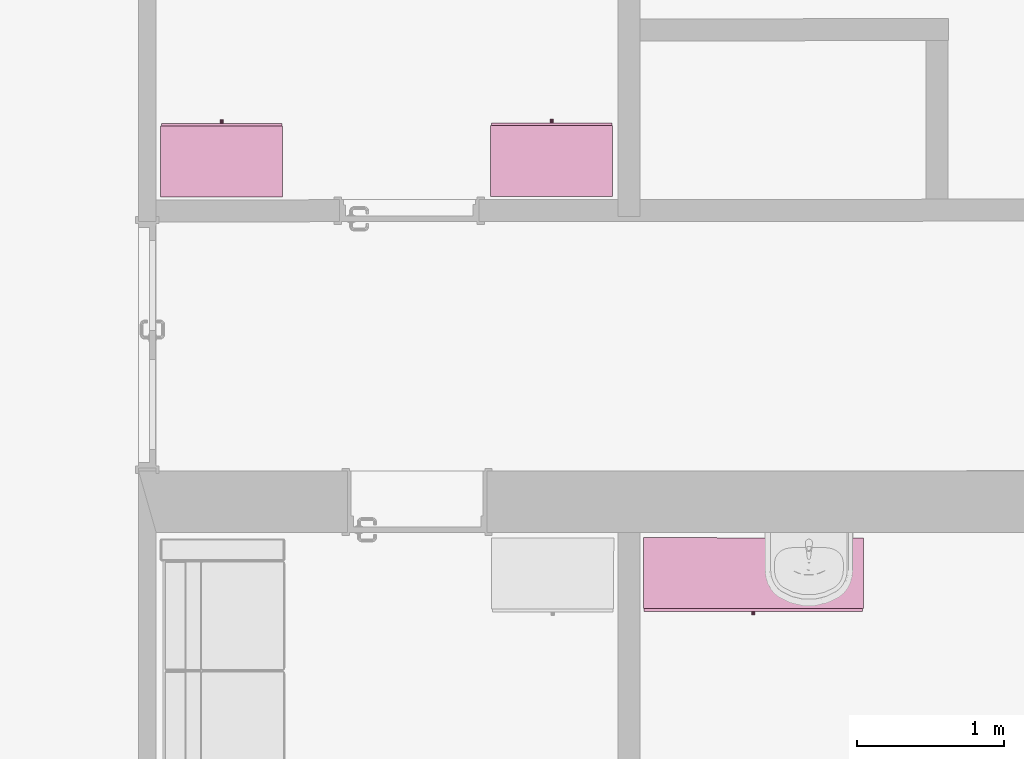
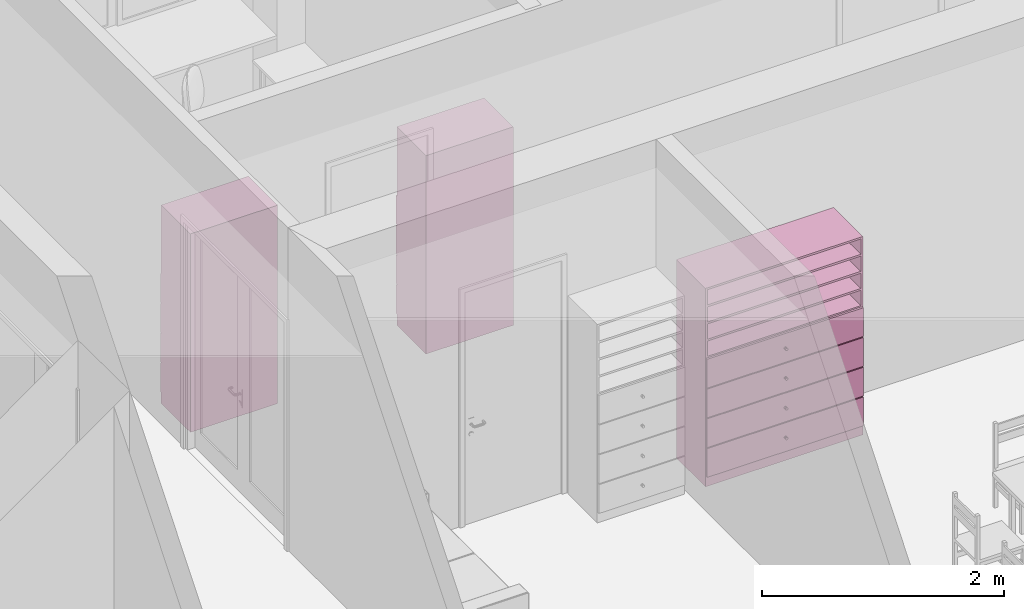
# One storey, part 131 of 194: 3 furnishings.
"""IFC2X3 building model written with IfcOpenShell, lengths in millimetres."""

from ifc_helpers import new_model, entity, si_unit, converted_unit, derived_unit, money_unit, direction, frame, origin_with_axes, place, context, subcontext, project, spatial, faceted_brep, source, transform, mapped, type_object, element, save


model = new_model("IFC2X3")

# Units and contexts
model_context = context("Model", 3, precision=1e-05, world=origin_with_axes(), true_north=direction((0.0, 1.0)))
body_context = subcontext(model_context, "Body", "Model", "MODEL_VIEW")
ifc_project = project(units=[si_unit("LENGTHUNIT", "METRE", prefix="MILLI"), si_unit("AREAUNIT", "SQUARE_METRE"), si_unit("VOLUMEUNIT", "CUBIC_METRE"), converted_unit("PLANEANGLEUNIT", "DEGREE", entity("IfcPlaneAngleMeasure", 0.0174532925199), si_unit("PLANEANGLEUNIT", "RADIAN"), dimensions=[0, 0, 0, 0, 0, 0, 0]), si_unit("SOLIDANGLEUNIT", "STERADIAN"), money_unit("EUR"), converted_unit("TIMEUNIT", "Year", entity("IfcTimeMeasure", 31556926.0), si_unit("TIMEUNIT", "SECOND"), dimensions=[0, 0, 1, 0, 0, 0, 0]), si_unit("MASSUNIT", "GRAM", prefix="KILO"), si_unit("THERMODYNAMICTEMPERATUREUNIT", "DEGREE_CELSIUS"), si_unit("LUMINOUSINTENSITYUNIT", "LUMEN"), si_unit("ENERGYUNIT", "JOULE", prefix="MEGA"), derived_unit("THERMALCONDUCTANCEUNIT", [(si_unit("POWERUNIT", "WATT"), 1), (si_unit("LENGTHUNIT", "METRE"), -1), (si_unit("THERMODYNAMICTEMPERATUREUNIT", "KELVIN"), -1)]), derived_unit("SPECIFICHEATCAPACITYUNIT", [(si_unit("ENERGYUNIT", "JOULE"), 1), (si_unit("MASSUNIT", "GRAM", prefix="KILO"), -1), (si_unit("THERMODYNAMICTEMPERATUREUNIT", "KELVIN"), -1)]), derived_unit("MASSDENSITYUNIT", [(si_unit("MASSUNIT", "GRAM", prefix="KILO"), 1), (si_unit("VOLUMEUNIT", "CUBIC_METRE"), -1)])], contexts=[model_context])

# Site, building, storey
site_placement = place(None, origin_with_axes())
site = spatial("IfcSite", under=ifc_project, at=site_placement, Name="Site", CompositionType="ELEMENT")
building_placement = place(site_placement, origin_with_axes())
building = spatial("IfcBuilding", under=site, at=building_placement, Name="Building", CompositionType="ELEMENT")
storey_placement = place(building_placement, frame((0.0, 0.0, 3000.0), z_axis=(0.0, 0.0, 1.0), x_axis=(1.0, 0.0, 0.0)))
storey = spatial("IfcBuildingStorey", under=building, at=storey_placement, Name="2 KORRUS", CompositionType="ELEMENT", Elevation=3000.0)

# Furnishings
furnishing_element_type_1 = type_object("IfcFurnishingElementType", Name="Model Element 74")
shared_shape_1 = source(origin_with_axes(), body_context, "Body", "Brep", [
    faceted_brep([(1500.0, 19.0, 0.0), (0.0, 19.0, 0.0), (0.0, 501.688731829, 0.0), (1500.0, 501.688731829, 0.0), (1500.0, 19.0, 100.0), (0.0, 19.0, 100.0), (0.0, 501.688731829, 100.0), (1500.0, 501.688731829, 100.0)], [[[0, 1, 2, 3]], [[1, 0, 4, 5]], [[2, 1, 5, 6]], [[3, 2, 6, 7]], [[0, 3, 7, 4]], [[5, 4, 7, 6]]]),
    faceted_brep([(19.0, 501.688731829, 119.0), (19.0, 482.688731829, 119.0), (19.0, 482.688731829, 1981.0), (19.0, 501.688731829, 1981.0), (1481.0, 501.688731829, 119.0), (1481.0, 482.688731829, 119.0), (1481.0, 482.688731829, 1981.0), (1481.0, 501.688731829, 1981.0)], [[[0, 1, 2, 3]], [[0, 4, 5, 1]], [[1, 5, 6, 2]], [[3, 2, 6, 7]], [[4, 0, 3, 7]], [[5, 4, 7, 6]]]),
    faceted_brep([(1500.0, 19.0, 100.0), (1481.0, 19.0, 100.0), (1481.0, 501.688731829, 100.0), (1500.0, 501.688731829, 100.0), (1500.0, 19.0, 2000.0), (1481.0, 19.0, 2000.0), (1481.0, 501.688731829, 2000.0), (1500.0, 501.688731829, 2000.0)], [[[0, 1, 2, 3]], [[1, 0, 4, 5]], [[2, 1, 5, 6]], [[3, 2, 6, 7]], [[0, 3, 7, 4]], [[5, 4, 7, 6]]]),
    faceted_brep([(19.0, 19.0, 100.0), (0.0, 19.0, 100.0), (0.0, 501.688731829, 100.0), (19.0, 501.688731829, 100.0), (19.0, 19.0, 2000.0), (0.0, 19.0, 2000.0), (0.0, 501.688731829, 2000.0), (19.0, 501.688731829, 2000.0)], [[[0, 1, 2, 3]], [[1, 0, 4, 5]], [[2, 1, 5, 6]], [[3, 2, 6, 7]], [[0, 3, 7, 4]], [[5, 4, 7, 6]]]),
    faceted_brep([(1481.0, 19.0, 100.0), (19.0, 19.0, 100.0), (19.0, 501.688731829, 100.0), (1481.0, 501.688731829, 100.0), (1481.0, 19.0, 119.0), (19.0, 19.0, 119.0), (19.0, 501.688731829, 119.0), (1481.0, 501.688731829, 119.0)], [[[0, 1, 2, 3]], [[1, 0, 4, 5]], [[2, 1, 5, 6]], [[3, 2, 6, 7]], [[0, 3, 7, 4]], [[5, 4, 7, 6]]]),
    faceted_brep([(1481.0, 19.0, 1981.0), (19.0, 19.0, 1981.0), (19.0, 501.688731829, 1981.0), (1481.0, 501.688731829, 1981.0), (1481.0, 19.0, 2000.0), (19.0, 19.0, 2000.0), (19.0, 501.688731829, 2000.0), (1481.0, 501.688731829, 2000.0)], [[[0, 1, 2, 3]], [[1, 0, 4, 5]], [[2, 1, 5, 6]], [[3, 2, 6, 7]], [[0, 3, 7, 4]], [[5, 4, 7, 6]]]),
    faceted_brep([(5.0, 19.0, 105.0), (1495.0, 19.0, 105.0), (1495.0, 0.0, 105.0), (5.0, 0.0, 105.0), (5.0, 19.0, 395.0), (1495.0, 19.0, 395.0), (1495.0, 0.0, 395.0), (5.0, 0.0, 395.0)], [[[0, 1, 2, 3]], [[0, 4, 5, 1]], [[1, 5, 6, 2]], [[3, 2, 6, 7]], [[4, 0, 3, 7]], [[5, 4, 7, 6]]]),
    faceted_brep([(760.392304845, 0.0, 244.0), (756.0, 0.0, 239.607695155), (750.0, 0.0, 238.0), (744.0, 0.0, 239.607695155), (739.607695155, 0.0, 244.0), (738.0, 0.0, 250.0), (739.607695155, 0.0, 256.0), (744.0, 0.0, 260.392304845), (750.0, 0.0, 262.0), (756.0, 0.0, 260.392304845), (760.392304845, 0.0, 256.0), (762.0, 0.0, 250.0), (760.392304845, -25.0, 244.0), (756.0, -25.0, 239.607695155), (750.0, -25.0, 238.0), (744.0, -25.0, 239.607695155), (739.607695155, -25.0, 244.0), (738.0, -25.0, 250.0), (739.607695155, -25.0, 256.0), (744.0, -25.0, 260.392304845), (750.0, -25.0, 262.0), (756.0, -25.0, 260.392304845), (760.392304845, -25.0, 256.0), (762.0, -25.0, 250.0)], [[[0, 1, 2, 3, 4, 5, 6, 7, 8, 9, 10, 11]], [[1, 0, 12, 13]], [[2, 1, 13, 14]], [[3, 2, 14, 15]], [[4, 3, 15, 16]], [[5, 4, 16, 17]], [[6, 5, 17, 18]], [[7, 6, 18, 19]], [[8, 7, 19, 20]], [[9, 8, 20, 21]], [[10, 9, 21, 22]], [[11, 10, 22, 23]], [[0, 11, 23, 12]], [[12, 23, 22, 21, 20, 19, 18, 17, 16, 15, 14, 13]]]),
    faceted_brep([(5.0, 19.0, 405.0), (1495.0, 19.0, 405.0), (1495.0, 0.0, 405.0), (5.0, 0.0, 405.0), (5.0, 19.0, 695.0), (1495.0, 19.0, 695.0), (1495.0, 0.0, 695.0), (5.0, 0.0, 695.0)], [[[0, 1, 2, 3]], [[0, 4, 5, 1]], [[1, 5, 6, 2]], [[3, 2, 6, 7]], [[4, 0, 3, 7]], [[5, 4, 7, 6]]]),
    faceted_brep([(760.392304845, 0.0, 544.0), (756.0, 0.0, 539.607695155), (750.0, 0.0, 538.0), (744.0, 0.0, 539.607695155), (739.607695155, 0.0, 544.0), (738.0, 0.0, 550.0), (739.607695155, 0.0, 556.0), (744.0, 0.0, 560.392304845), (750.0, 0.0, 562.0), (756.0, 0.0, 560.392304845), (760.392304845, 0.0, 556.0), (762.0, 0.0, 550.0), (760.392304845, -25.0, 544.0), (756.0, -25.0, 539.607695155), (750.0, -25.0, 538.0), (744.0, -25.0, 539.607695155), (739.607695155, -25.0, 544.0), (738.0, -25.0, 550.0), (739.607695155, -25.0, 556.0), (744.0, -25.0, 560.392304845), (750.0, -25.0, 562.0), (756.0, -25.0, 560.392304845), (760.392304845, -25.0, 556.0), (762.0, -25.0, 550.0)], [[[0, 1, 2, 3, 4, 5, 6, 7, 8, 9, 10, 11]], [[1, 0, 12, 13]], [[2, 1, 13, 14]], [[3, 2, 14, 15]], [[4, 3, 15, 16]], [[5, 4, 16, 17]], [[6, 5, 17, 18]], [[7, 6, 18, 19]], [[8, 7, 19, 20]], [[9, 8, 20, 21]], [[10, 9, 21, 22]], [[11, 10, 22, 23]], [[0, 11, 23, 12]], [[12, 23, 22, 21, 20, 19, 18, 17, 16, 15, 14, 13]]]),
    faceted_brep([(5.0, 19.0, 705.0), (1495.0, 19.0, 705.0), (1495.0, 0.0, 705.0), (5.0, 0.0, 705.0), (5.0, 19.0, 995.0), (1495.0, 19.0, 995.0), (1495.0, 0.0, 995.0), (5.0, 0.0, 995.0)], [[[0, 1, 2, 3]], [[0, 4, 5, 1]], [[1, 5, 6, 2]], [[3, 2, 6, 7]], [[4, 0, 3, 7]], [[5, 4, 7, 6]]]),
    faceted_brep([(760.392304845, 0.0, 844.0), (756.0, 0.0, 839.607695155), (750.0, 0.0, 838.0), (744.0, 0.0, 839.607695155), (739.607695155, 0.0, 844.0), (738.0, 0.0, 850.0), (739.607695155, 0.0, 856.0), (744.0, 0.0, 860.392304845), (750.0, 0.0, 862.0), (756.0, 0.0, 860.392304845), (760.392304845, 0.0, 856.0), (762.0, 0.0, 850.0), (760.392304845, -25.0, 844.0), (756.0, -25.0, 839.607695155), (750.0, -25.0, 838.0), (744.0, -25.0, 839.607695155), (739.607695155, -25.0, 844.0), (738.0, -25.0, 850.0), (739.607695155, -25.0, 856.0), (744.0, -25.0, 860.392304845), (750.0, -25.0, 862.0), (756.0, -25.0, 860.392304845), (760.392304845, -25.0, 856.0), (762.0, -25.0, 850.0)], [[[0, 1, 2, 3, 4, 5, 6, 7, 8, 9, 10, 11]], [[1, 0, 12, 13]], [[2, 1, 13, 14]], [[3, 2, 14, 15]], [[4, 3, 15, 16]], [[5, 4, 16, 17]], [[6, 5, 17, 18]], [[7, 6, 18, 19]], [[8, 7, 19, 20]], [[9, 8, 20, 21]], [[10, 9, 21, 22]], [[11, 10, 22, 23]], [[0, 11, 23, 12]], [[12, 23, 22, 21, 20, 19, 18, 17, 16, 15, 14, 13]]]),
    faceted_brep([(5.0, 19.0, 1005.0), (1495.0, 19.0, 1005.0), (1495.0, 0.0, 1005.0), (5.0, 0.0, 1005.0), (5.0, 19.0, 1295.0), (1495.0, 19.0, 1295.0), (1495.0, 0.0, 1295.0), (5.0, 0.0, 1295.0)], [[[0, 1, 2, 3]], [[0, 4, 5, 1]], [[1, 5, 6, 2]], [[3, 2, 6, 7]], [[4, 0, 3, 7]], [[5, 4, 7, 6]]]),
    faceted_brep([(760.392304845, 0.0, 1144.0), (756.0, 0.0, 1139.60769515), (750.0, 0.0, 1138.0), (744.0, 0.0, 1139.60769515), (739.607695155, 0.0, 1144.0), (738.0, 0.0, 1150.0), (739.607695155, 0.0, 1156.0), (744.0, 0.0, 1160.39230485), (750.0, 0.0, 1162.0), (756.0, 0.0, 1160.39230485), (760.392304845, 0.0, 1156.0), (762.0, 0.0, 1150.0), (760.392304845, -25.0, 1144.0), (756.0, -25.0, 1139.60769515), (750.0, -25.0, 1138.0), (744.0, -25.0, 1139.60769515), (739.607695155, -25.0, 1144.0), (738.0, -25.0, 1150.0), (739.607695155, -25.0, 1156.0), (744.0, -25.0, 1160.39230485), (750.0, -25.0, 1162.0), (756.0, -25.0, 1160.39230485), (760.392304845, -25.0, 1156.0), (762.0, -25.0, 1150.0)], [[[0, 1, 2, 3, 4, 5, 6, 7, 8, 9, 10, 11]], [[1, 0, 12, 13]], [[2, 1, 13, 14]], [[3, 2, 14, 15]], [[4, 3, 15, 16]], [[5, 4, 16, 17]], [[6, 5, 17, 18]], [[7, 6, 18, 19]], [[8, 7, 19, 20]], [[9, 8, 20, 21]], [[10, 9, 21, 22]], [[11, 10, 22, 23]], [[0, 11, 23, 12]], [[12, 23, 22, 21, 20, 19, 18, 17, 16, 15, 14, 13]]]),
    faceted_brep([(19.0, 19.0, 390.5), (1481.0, 19.0, 390.5), (1481.0, 19.0, 409.5), (19.0, 19.0, 409.5), (19.0, 482.688731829, 390.5), (1481.0, 482.688731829, 390.5), (1481.0, 482.688731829, 409.5), (19.0, 482.688731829, 409.5)], [[[0, 1, 2, 3]], [[0, 4, 5, 1]], [[1, 5, 6, 2]], [[3, 2, 6, 7]], [[4, 0, 3, 7]], [[5, 4, 7, 6]]]),
    faceted_brep([(19.0, 19.0, 690.5), (1481.0, 19.0, 690.5), (1481.0, 19.0, 709.5), (19.0, 19.0, 709.5), (19.0, 482.688731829, 690.5), (1481.0, 482.688731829, 690.5), (1481.0, 482.688731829, 709.5), (19.0, 482.688731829, 709.5)], [[[0, 1, 2, 3]], [[0, 4, 5, 1]], [[1, 5, 6, 2]], [[3, 2, 6, 7]], [[4, 0, 3, 7]], [[5, 4, 7, 6]]]),
    faceted_brep([(19.0, 19.0, 990.5), (1481.0, 19.0, 990.5), (1481.0, 19.0, 1009.5), (19.0, 19.0, 1009.5), (19.0, 482.688731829, 990.5), (1481.0, 482.688731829, 990.5), (1481.0, 482.688731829, 1009.5), (19.0, 482.688731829, 1009.5)], [[[0, 1, 2, 3]], [[0, 4, 5, 1]], [[1, 5, 6, 2]], [[3, 2, 6, 7]], [[4, 0, 3, 7]], [[5, 4, 7, 6]]]),
    faceted_brep([(19.0, 19.0, 1290.5), (1481.0, 19.0, 1290.5), (1481.0, 19.0, 1309.5), (19.0, 19.0, 1309.5), (19.0, 482.688731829, 1290.5), (1481.0, 482.688731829, 1290.5), (1481.0, 482.688731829, 1309.5), (19.0, 482.688731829, 1309.5)], [[[0, 1, 2, 3]], [[0, 4, 5, 1]], [[1, 5, 6, 2]], [[3, 2, 6, 7]], [[4, 0, 3, 7]], [[5, 4, 7, 6]]]),
    faceted_brep([(1481.0, 19.0, 1463.125), (19.0, 19.0, 1463.125), (19.0, 482.688731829, 1463.125), (1481.0, 482.688731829, 1463.125), (1481.0, 19.0, 1482.125), (19.0, 19.0, 1482.125), (19.0, 482.688731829, 1482.125), (1481.0, 482.688731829, 1482.125)], [[[0, 1, 2, 3]], [[1, 0, 4, 5]], [[2, 1, 5, 6]], [[3, 2, 6, 7]], [[0, 3, 7, 4]], [[5, 4, 7, 6]]]),
    faceted_brep([(1481.0, 19.0, 1635.75), (19.0, 19.0, 1635.75), (19.0, 482.688731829, 1635.75), (1481.0, 482.688731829, 1635.75), (1481.0, 19.0, 1654.75), (19.0, 19.0, 1654.75), (19.0, 482.688731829, 1654.75), (1481.0, 482.688731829, 1654.75)], [[[0, 1, 2, 3]], [[1, 0, 4, 5]], [[2, 1, 5, 6]], [[3, 2, 6, 7]], [[0, 3, 7, 4]], [[5, 4, 7, 6]]]),
    faceted_brep([(1481.0, 19.0, 1808.375), (19.0, 19.0, 1808.375), (19.0, 482.688731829, 1808.375), (1481.0, 482.688731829, 1808.375), (1481.0, 19.0, 1827.375), (19.0, 19.0, 1827.375), (19.0, 482.688731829, 1827.375), (1481.0, 482.688731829, 1827.375)], [[[0, 1, 2, 3]], [[1, 0, 4, 5]], [[2, 1, 5, 6]], [[3, 2, 6, 7]], [[0, 3, 7, 4]], [[5, 4, 7, 6]]]),
])
furnishing_placement = place(storey_placement, frame((43176.7807969, 40145.7132077, 0.0), z_axis=(0.0, 0.0, 1.0), x_axis=(0.999999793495, -0.000642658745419, 0.0)))
element("IfcFurnishingElement", 1, at=furnishing_placement, inside=storey, type_object=furnishing_element_type_1, Name="FU - 001", context=body_context, shape_type="MappedRepresentation", body=[
    mapped(shared_shape_1, transform((0.0, 0.0, 0.0))),
])
furnishing_element_type_2 = type_object("IfcFurnishingElementType", Name="Model Element 61")
shared_shape_2 = source(origin_with_axes(), body_context, "Body", "Brep", [
    faceted_brep([(831.932587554, 19.0, 0.0), (0.0, 19.0, 0.0), (0.0, 501.89564716, 0.0), (831.932587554, 501.89564716, 0.0), (831.932587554, 19.0, 100.0), (0.0, 19.0, 100.0), (0.0, 501.89564716, 100.0), (831.932587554, 501.89564716, 100.0)], [[[0, 1, 2, 3]], [[1, 0, 4, 5]], [[2, 1, 5, 6]], [[3, 2, 6, 7]], [[0, 3, 7, 4]], [[5, 4, 7, 6]]]),
    faceted_brep([(19.0, 501.89564716, 119.0), (19.0, 482.89564716, 119.0), (19.0, 482.89564716, 1981.0), (19.0, 501.89564716, 1981.0), (812.932587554, 501.89564716, 119.0), (812.932587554, 482.89564716, 119.0), (812.932587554, 482.89564716, 1981.0), (812.932587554, 501.89564716, 1981.0)], [[[0, 1, 2, 3]], [[0, 4, 5, 1]], [[1, 5, 6, 2]], [[3, 2, 6, 7]], [[4, 0, 3, 7]], [[5, 4, 7, 6]]]),
    faceted_brep([(831.932587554, 19.0, 100.0), (812.932587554, 19.0, 100.0), (812.932587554, 501.89564716, 100.0), (831.932587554, 501.89564716, 100.0), (831.932587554, 19.0, 2000.0), (812.932587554, 19.0, 2000.0), (812.932587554, 501.89564716, 2000.0), (831.932587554, 501.89564716, 2000.0)], [[[0, 1, 2, 3]], [[1, 0, 4, 5]], [[2, 1, 5, 6]], [[3, 2, 6, 7]], [[0, 3, 7, 4]], [[5, 4, 7, 6]]]),
    faceted_brep([(19.0, 19.0, 100.0), (0.0, 19.0, 100.0), (0.0, 501.89564716, 100.0), (19.0, 501.89564716, 100.0), (19.0, 19.0, 2000.0), (0.0, 19.0, 2000.0), (0.0, 501.89564716, 2000.0), (19.0, 501.89564716, 2000.0)], [[[0, 1, 2, 3]], [[1, 0, 4, 5]], [[2, 1, 5, 6]], [[3, 2, 6, 7]], [[0, 3, 7, 4]], [[5, 4, 7, 6]]]),
    faceted_brep([(812.932587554, 19.0, 100.0), (19.0, 19.0, 100.0), (19.0, 501.89564716, 100.0), (812.932587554, 501.89564716, 100.0), (812.932587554, 19.0, 119.0), (19.0, 19.0, 119.0), (19.0, 501.89564716, 119.0), (812.932587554, 501.89564716, 119.0)], [[[0, 1, 2, 3]], [[1, 0, 4, 5]], [[2, 1, 5, 6]], [[3, 2, 6, 7]], [[0, 3, 7, 4]], [[5, 4, 7, 6]]]),
    faceted_brep([(812.932587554, 19.0, 1981.0), (19.0, 19.0, 1981.0), (19.0, 501.89564716, 1981.0), (812.932587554, 501.89564716, 1981.0), (812.932587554, 19.0, 2000.0), (19.0, 19.0, 2000.0), (19.0, 501.89564716, 2000.0), (812.932587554, 501.89564716, 2000.0)], [[[0, 1, 2, 3]], [[1, 0, 4, 5]], [[2, 1, 5, 6]], [[3, 2, 6, 7]], [[0, 3, 7, 4]], [[5, 4, 7, 6]]]),
    faceted_brep([(5.0, 19.0, 105.0), (826.932587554, 19.0, 105.0), (826.932587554, 0.0, 105.0), (5.0, 0.0, 105.0), (5.0, 19.0, 395.0), (826.932587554, 19.0, 395.0), (826.932587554, 0.0, 395.0), (5.0, 0.0, 395.0)], [[[0, 1, 2, 3]], [[0, 4, 5, 1]], [[1, 5, 6, 2]], [[3, 2, 6, 7]], [[4, 0, 3, 7]], [[5, 4, 7, 6]]]),
    faceted_brep([(426.358598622, 0.0, 244.0), (421.966293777, 0.0, 239.607695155), (415.966293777, 0.0, 238.0), (409.966293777, 0.0, 239.607695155), (405.573988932, 0.0, 244.0), (403.966293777, 0.0, 250.0), (405.573988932, 0.0, 256.0), (409.966293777, 0.0, 260.392304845), (415.966293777, 0.0, 262.0), (421.966293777, 0.0, 260.392304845), (426.358598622, 0.0, 256.0), (427.966293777, 0.0, 250.0), (426.358598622, -25.0, 244.0), (421.966293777, -25.0, 239.607695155), (415.966293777, -25.0, 238.0), (409.966293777, -25.0, 239.607695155), (405.573988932, -25.0, 244.0), (403.966293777, -25.0, 250.0), (405.573988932, -25.0, 256.0), (409.966293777, -25.0, 260.392304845), (415.966293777, -25.0, 262.0), (421.966293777, -25.0, 260.392304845), (426.358598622, -25.0, 256.0), (427.966293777, -25.0, 250.0)], [[[0, 1, 2, 3, 4, 5, 6, 7, 8, 9, 10, 11]], [[1, 0, 12, 13]], [[2, 1, 13, 14]], [[3, 2, 14, 15]], [[4, 3, 15, 16]], [[5, 4, 16, 17]], [[6, 5, 17, 18]], [[7, 6, 18, 19]], [[8, 7, 19, 20]], [[9, 8, 20, 21]], [[10, 9, 21, 22]], [[11, 10, 22, 23]], [[0, 11, 23, 12]], [[12, 23, 22, 21, 20, 19, 18, 17, 16, 15, 14, 13]]]),
    faceted_brep([(5.0, 19.0, 405.0), (826.932587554, 19.0, 405.0), (826.932587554, 0.0, 405.0), (5.0, 0.0, 405.0), (5.0, 19.0, 695.0), (826.932587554, 19.0, 695.0), (826.932587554, 0.0, 695.0), (5.0, 0.0, 695.0)], [[[0, 1, 2, 3]], [[0, 4, 5, 1]], [[1, 5, 6, 2]], [[3, 2, 6, 7]], [[4, 0, 3, 7]], [[5, 4, 7, 6]]]),
    faceted_brep([(426.358598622, 0.0, 544.0), (421.966293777, 0.0, 539.607695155), (415.966293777, 0.0, 538.0), (409.966293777, 0.0, 539.607695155), (405.573988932, 0.0, 544.0), (403.966293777, 0.0, 550.0), (405.573988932, 0.0, 556.0), (409.966293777, 0.0, 560.392304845), (415.966293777, 0.0, 562.0), (421.966293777, 0.0, 560.392304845), (426.358598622, 0.0, 556.0), (427.966293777, 0.0, 550.0), (426.358598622, -25.0, 544.0), (421.966293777, -25.0, 539.607695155), (415.966293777, -25.0, 538.0), (409.966293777, -25.0, 539.607695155), (405.573988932, -25.0, 544.0), (403.966293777, -25.0, 550.0), (405.573988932, -25.0, 556.0), (409.966293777, -25.0, 560.392304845), (415.966293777, -25.0, 562.0), (421.966293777, -25.0, 560.392304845), (426.358598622, -25.0, 556.0), (427.966293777, -25.0, 550.0)], [[[0, 1, 2, 3, 4, 5, 6, 7, 8, 9, 10, 11]], [[1, 0, 12, 13]], [[2, 1, 13, 14]], [[3, 2, 14, 15]], [[4, 3, 15, 16]], [[5, 4, 16, 17]], [[6, 5, 17, 18]], [[7, 6, 18, 19]], [[8, 7, 19, 20]], [[9, 8, 20, 21]], [[10, 9, 21, 22]], [[11, 10, 22, 23]], [[0, 11, 23, 12]], [[12, 23, 22, 21, 20, 19, 18, 17, 16, 15, 14, 13]]]),
    faceted_brep([(5.0, 19.0, 705.0), (826.932587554, 19.0, 705.0), (826.932587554, 0.0, 705.0), (5.0, 0.0, 705.0), (5.0, 19.0, 995.0), (826.932587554, 19.0, 995.0), (826.932587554, 0.0, 995.0), (5.0, 0.0, 995.0)], [[[0, 1, 2, 3]], [[0, 4, 5, 1]], [[1, 5, 6, 2]], [[3, 2, 6, 7]], [[4, 0, 3, 7]], [[5, 4, 7, 6]]]),
    faceted_brep([(426.358598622, 0.0, 844.0), (421.966293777, 0.0, 839.607695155), (415.966293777, 0.0, 838.0), (409.966293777, 0.0, 839.607695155), (405.573988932, 0.0, 844.0), (403.966293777, 0.0, 850.0), (405.573988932, 0.0, 856.0), (409.966293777, 0.0, 860.392304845), (415.966293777, 0.0, 862.0), (421.966293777, 0.0, 860.392304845), (426.358598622, 0.0, 856.0), (427.966293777, 0.0, 850.0), (426.358598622, -25.0, 844.0), (421.966293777, -25.0, 839.607695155), (415.966293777, -25.0, 838.0), (409.966293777, -25.0, 839.607695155), (405.573988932, -25.0, 844.0), (403.966293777, -25.0, 850.0), (405.573988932, -25.0, 856.0), (409.966293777, -25.0, 860.392304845), (415.966293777, -25.0, 862.0), (421.966293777, -25.0, 860.392304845), (426.358598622, -25.0, 856.0), (427.966293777, -25.0, 850.0)], [[[0, 1, 2, 3, 4, 5, 6, 7, 8, 9, 10, 11]], [[1, 0, 12, 13]], [[2, 1, 13, 14]], [[3, 2, 14, 15]], [[4, 3, 15, 16]], [[5, 4, 16, 17]], [[6, 5, 17, 18]], [[7, 6, 18, 19]], [[8, 7, 19, 20]], [[9, 8, 20, 21]], [[10, 9, 21, 22]], [[11, 10, 22, 23]], [[0, 11, 23, 12]], [[12, 23, 22, 21, 20, 19, 18, 17, 16, 15, 14, 13]]]),
    faceted_brep([(5.0, 19.0, 1005.0), (826.932587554, 19.0, 1005.0), (826.932587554, 0.0, 1005.0), (5.0, 0.0, 1005.0), (5.0, 19.0, 1295.0), (826.932587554, 19.0, 1295.0), (826.932587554, 0.0, 1295.0), (5.0, 0.0, 1295.0)], [[[0, 1, 2, 3]], [[0, 4, 5, 1]], [[1, 5, 6, 2]], [[3, 2, 6, 7]], [[4, 0, 3, 7]], [[5, 4, 7, 6]]]),
    faceted_brep([(426.358598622, 0.0, 1144.0), (421.966293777, 0.0, 1139.60769515), (415.966293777, 0.0, 1138.0), (409.966293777, 0.0, 1139.60769515), (405.573988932, 0.0, 1144.0), (403.966293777, 0.0, 1150.0), (405.573988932, 0.0, 1156.0), (409.966293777, 0.0, 1160.39230485), (415.966293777, 0.0, 1162.0), (421.966293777, 0.0, 1160.39230485), (426.358598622, 0.0, 1156.0), (427.966293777, 0.0, 1150.0), (426.358598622, -25.0, 1144.0), (421.966293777, -25.0, 1139.60769515), (415.966293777, -25.0, 1138.0), (409.966293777, -25.0, 1139.60769515), (405.573988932, -25.0, 1144.0), (403.966293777, -25.0, 1150.0), (405.573988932, -25.0, 1156.0), (409.966293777, -25.0, 1160.39230485), (415.966293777, -25.0, 1162.0), (421.966293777, -25.0, 1160.39230485), (426.358598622, -25.0, 1156.0), (427.966293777, -25.0, 1150.0)], [[[0, 1, 2, 3, 4, 5, 6, 7, 8, 9, 10, 11]], [[1, 0, 12, 13]], [[2, 1, 13, 14]], [[3, 2, 14, 15]], [[4, 3, 15, 16]], [[5, 4, 16, 17]], [[6, 5, 17, 18]], [[7, 6, 18, 19]], [[8, 7, 19, 20]], [[9, 8, 20, 21]], [[10, 9, 21, 22]], [[11, 10, 22, 23]], [[0, 11, 23, 12]], [[12, 23, 22, 21, 20, 19, 18, 17, 16, 15, 14, 13]]]),
    faceted_brep([(19.0, 19.0, 390.5), (812.932587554, 19.0, 390.5), (812.932587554, 19.0, 409.5), (19.0, 19.0, 409.5), (19.0, 482.89564716, 390.5), (812.932587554, 482.89564716, 390.5), (812.932587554, 482.89564716, 409.5), (19.0, 482.89564716, 409.5)], [[[0, 1, 2, 3]], [[0, 4, 5, 1]], [[1, 5, 6, 2]], [[3, 2, 6, 7]], [[4, 0, 3, 7]], [[5, 4, 7, 6]]]),
    faceted_brep([(19.0, 19.0, 690.5), (812.932587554, 19.0, 690.5), (812.932587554, 19.0, 709.5), (19.0, 19.0, 709.5), (19.0, 482.89564716, 690.5), (812.932587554, 482.89564716, 690.5), (812.932587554, 482.89564716, 709.5), (19.0, 482.89564716, 709.5)], [[[0, 1, 2, 3]], [[0, 4, 5, 1]], [[1, 5, 6, 2]], [[3, 2, 6, 7]], [[4, 0, 3, 7]], [[5, 4, 7, 6]]]),
    faceted_brep([(19.0, 19.0, 990.5), (812.932587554, 19.0, 990.5), (812.932587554, 19.0, 1009.5), (19.0, 19.0, 1009.5), (19.0, 482.89564716, 990.5), (812.932587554, 482.89564716, 990.5), (812.932587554, 482.89564716, 1009.5), (19.0, 482.89564716, 1009.5)], [[[0, 1, 2, 3]], [[0, 4, 5, 1]], [[1, 5, 6, 2]], [[3, 2, 6, 7]], [[4, 0, 3, 7]], [[5, 4, 7, 6]]]),
    faceted_brep([(19.0, 19.0, 1290.5), (812.932587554, 19.0, 1290.5), (812.932587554, 19.0, 1309.5), (19.0, 19.0, 1309.5), (19.0, 482.89564716, 1290.5), (812.932587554, 482.89564716, 1290.5), (812.932587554, 482.89564716, 1309.5), (19.0, 482.89564716, 1309.5)], [[[0, 1, 2, 3]], [[0, 4, 5, 1]], [[1, 5, 6, 2]], [[3, 2, 6, 7]], [[4, 0, 3, 7]], [[5, 4, 7, 6]]]),
    faceted_brep([(812.932587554, 19.0, 1463.125), (19.0, 19.0, 1463.125), (19.0, 482.89564716, 1463.125), (812.932587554, 482.89564716, 1463.125), (812.932587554, 19.0, 1482.125), (19.0, 19.0, 1482.125), (19.0, 482.89564716, 1482.125), (812.932587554, 482.89564716, 1482.125)], [[[0, 1, 2, 3]], [[1, 0, 4, 5]], [[2, 1, 5, 6]], [[3, 2, 6, 7]], [[0, 3, 7, 4]], [[5, 4, 7, 6]]]),
    faceted_brep([(812.932587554, 19.0, 1635.75), (19.0, 19.0, 1635.75), (19.0, 482.89564716, 1635.75), (812.932587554, 482.89564716, 1635.75), (812.932587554, 19.0, 1654.75), (19.0, 19.0, 1654.75), (19.0, 482.89564716, 1654.75), (812.932587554, 482.89564716, 1654.75)], [[[0, 1, 2, 3]], [[1, 0, 4, 5]], [[2, 1, 5, 6]], [[3, 2, 6, 7]], [[0, 3, 7, 4]], [[5, 4, 7, 6]]]),
    faceted_brep([(812.932587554, 19.0, 1808.375), (19.0, 19.0, 1808.375), (19.0, 482.89564716, 1808.375), (812.932587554, 482.89564716, 1808.375), (812.932587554, 19.0, 1827.375), (19.0, 19.0, 1827.375), (19.0, 482.89564716, 1827.375), (812.932587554, 482.89564716, 1827.375)], [[[0, 1, 2, 3]], [[1, 0, 4, 5]], [[2, 1, 5, 6]], [[3, 2, 6, 7]], [[0, 3, 7, 4]], [[5, 4, 7, 6]]]),
])
for number, where, z_axis, x_axis, name in (
    (2, (42966.7761899, 43475.584602, 0.0), (0.0, 0.0, 1.0), (-0.999999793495, 0.000642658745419, 0.0), "FU - 001"),
    (3, (40717.429281, 43472.4768982, 0.0), (0.0, 0.0, 1.0), (-0.999999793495, 0.000642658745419, 0.0), "FU - 001"),
):
    element("IfcFurnishingElement", number, at=place(storey_placement, frame(where, z_axis=z_axis, x_axis=x_axis)), inside=storey, type_object=furnishing_element_type_2, Name=name, context=body_context, shape_type="MappedRepresentation", body=[
        mapped(shared_shape_2, transform((0.0, 0.0, 0.0))),
    ])

save(model, "model.ifc")
